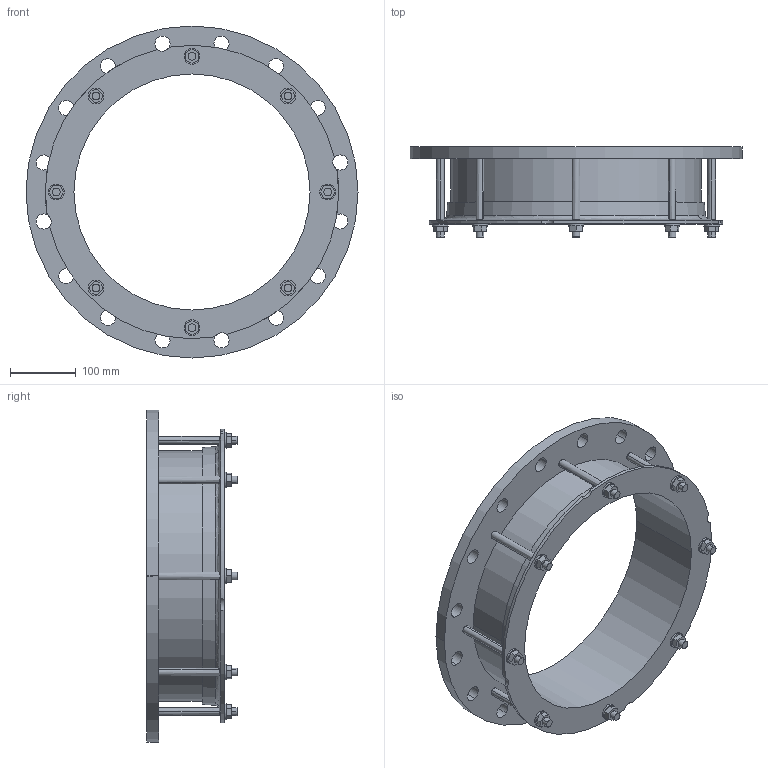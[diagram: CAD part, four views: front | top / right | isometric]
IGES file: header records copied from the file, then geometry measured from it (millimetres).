
Start section:  PTC IGES file: 355x350pn10_4not.igs
Global section: file name: 355x350pn10_4not.igs; native system: Creo Parametric by PTC Inc.; preprocessor: 2016130; author: mfairey; organization: Unknown; date: 20190116.092400; units: millimetre
Bounding box: 505 x 137.45 x 505 mm (x, y, z)
Surface area: 599005.4 mm2 (no closed solid volume)
Topology: 0 solids, 0 shells, 176 faces, 932 edges, 932 vertices
Faces by surface type: revolution 100, bspline 76
